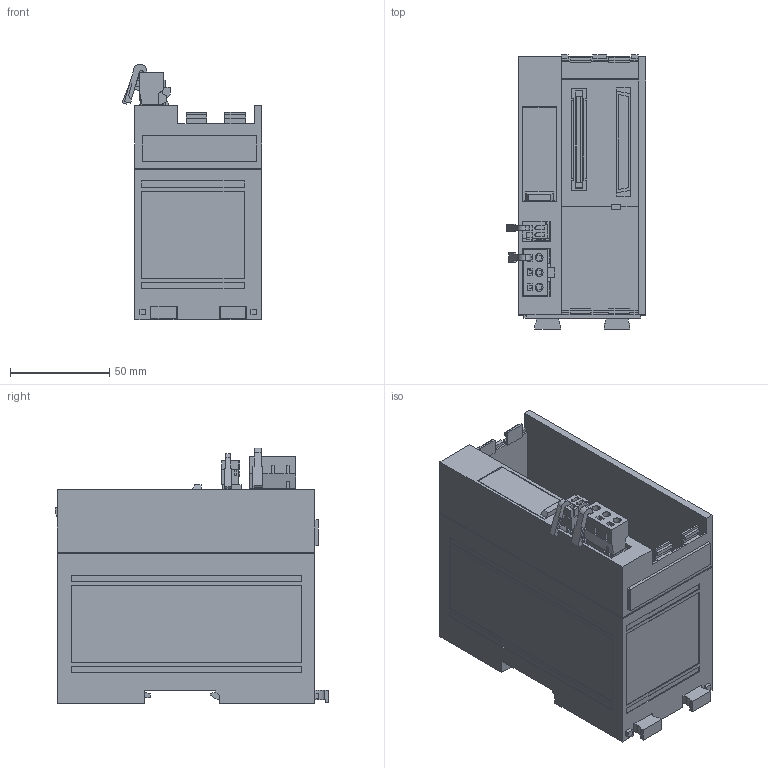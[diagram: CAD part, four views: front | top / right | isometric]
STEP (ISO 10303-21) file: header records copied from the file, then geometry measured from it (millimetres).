
FILE_DESCRIPTION (( 'STEP AP203' ), '1' );
FILE_NAME ('jepmc_bu3304_e.STEP', '2014-02-06T01:21:35', ( '匠エンジニアリング山之内' ), ( 'TAKUMI-Engniaring' ), 'SwSTEP 2.0', 'SolidWorks 2006303', '' );
FILE_SCHEMA (( 'CONFIG_CONTROL_DESIGN' ));
Length unit declared in the file: millimetre
Products named in the file (9): jepmc_bu3304_e_connector1; jepmc_bu3304_e_pin2; jepmc_bu3304_e; jepmc_bu3304_e_base; jepmc_bu3304_e_cover; jepmc_bu3304_e_pin1; jepmc_bu3304_e_connector2
Assembly tree (8 placements, depth 3):
  jepmc_bu3304_e
    jepmc_bu3304_e_base
    jepmc_bu3304_e_connector2
      jepmc_bu3304_e_connector2
      jepmc_bu3304_e_pin2
    jepmc_bu3304_e_connector1
      jepmc_bu3304_e_connector1
      jepmc_bu3304_e_pin1
    jepmc_bu3304_e_cover
Bounding box: 70.43 x 138 x 128.99 mm (x, y, z)
Volume: 373811.2 mm3; surface area: 115308.4 mm2
Topology: 6 solids, 6 shells, 812 faces, 2211 edges, 1463 vertices
Faces by surface type: plane 770, cylinder 42
Entity records: 26124 total; most frequent: CARTESIAN_POINT 4499, ORIENTED_EDGE 4422, DIRECTION 3955, EDGE_CURVE 2211, VECTOR 2117, LINE 2117, VERTEX_POINT 1463, AXIS2_PLACEMENT_3D 919
